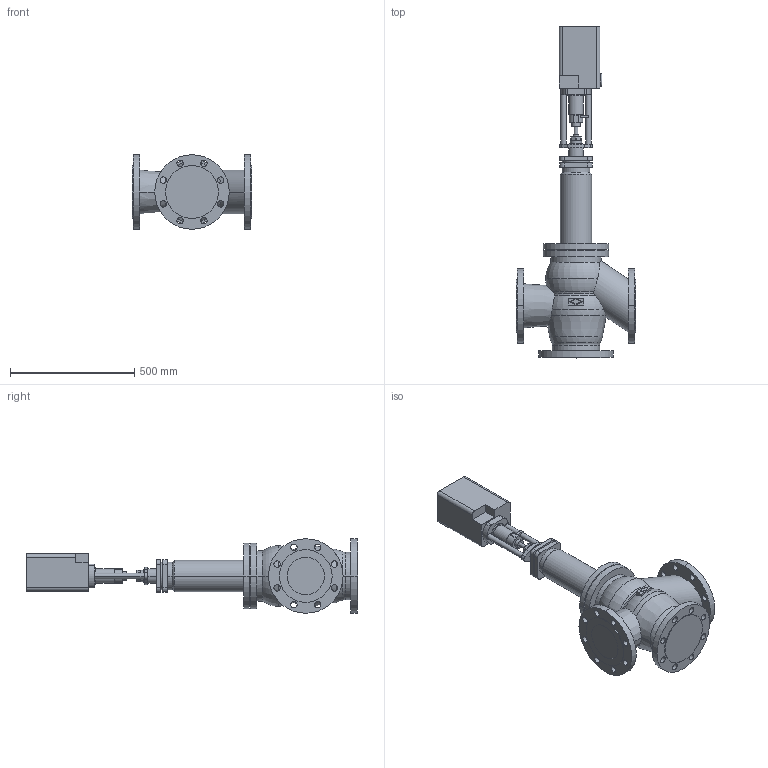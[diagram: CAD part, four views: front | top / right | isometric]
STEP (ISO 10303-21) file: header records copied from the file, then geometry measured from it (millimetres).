
FILE_DESCRIPTION(('OneSpaceDesigner STEP Export'),'2;1');
FILE_NAME('c000000426.stp','2006-09-21T11:41:56',(''),(''),'OneSpace Designer STEP processor for AP214 (Solid Model)','OneSpace Designer 13.20A 18-Aug-2005 (C) CoCreate Software GmbH','');
FILE_SCHEMA(('AUTOMOTIVE_DESIGN { 1 0 10303 214 1 1 1 1 }'));
Length unit declared in the file: millimetre
Products named in the file (2): 1; 2
Bounding box: 480 x 1336.2 x 300 mm (x, y, z)
Volume: 40389889.3 mm3; surface area: 1437161.6 mm2
Topology: 2 solids, 2 shells, 257 faces, 647 edges, 425 vertices
Faces by surface type: cylinder 128, plane 105, torus 18, cone 6
Entity records: 7238 total; most frequent: CARTESIAN_POINT 1418, ORIENTED_EDGE 1294, DIRECTION 1075, EDGE_CURVE 647, VERTEX_POINT 425, AXIS2_PLACEMENT_3D 386, EDGE_LOOP 336, VECTOR 303
